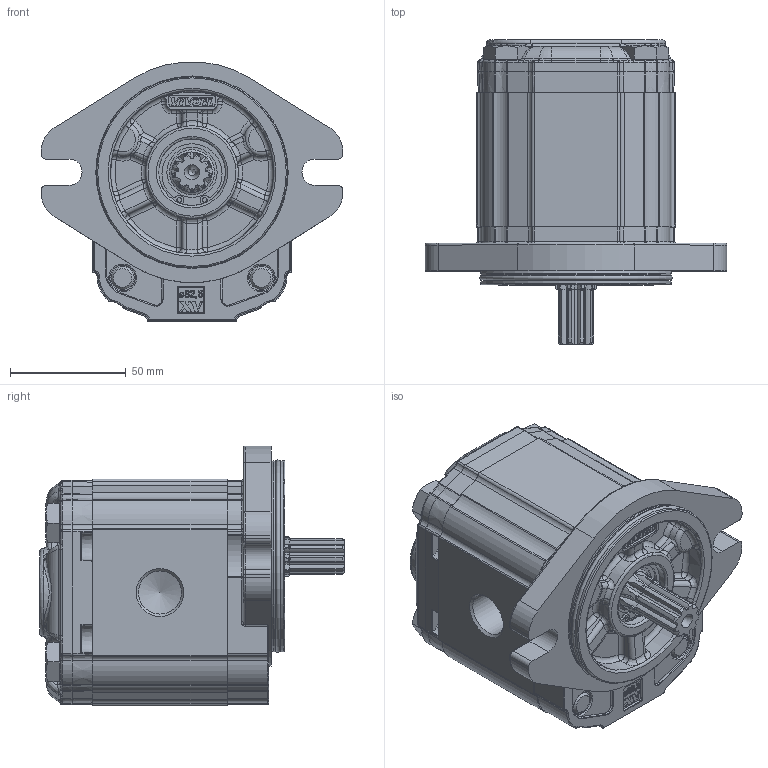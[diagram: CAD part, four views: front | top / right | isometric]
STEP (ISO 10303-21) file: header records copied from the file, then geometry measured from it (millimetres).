
FILE_DESCRIPTION(/* description */ ('Unknown'),/* implementation_level */ '2;1');
FILE_NAME(/* name */ 'X2R4731IBBF',/* time_stamp */ '2021-04-26T12:48:06+02:00',/* author */ ('Unknown'),/* organization */ ('Unknown'),/* preprocessor_version */ 'ST-DEVELOPER v16.7',/* originating_system */ 'Solid Edge',/* authorisation */ 'Unknown');
FILE_SCHEMA (('AUTOMOTIVE_DESIGN {1 0 10303 214 3 1 1}'));
Products named in the file (5): X2R4731IBBF; X2R31; 2I; X2BBH58; XR219-F
Assembly tree (4 placements, depth 2):
  X2R4731IBBF
    X2R31
    2I
    X2BBH58
    XR219-F
Bounding box: 130.38 x 131.7 x 112.3 mm (x, y, z)
Volume: 760419 mm3; surface area: 106184.8 mm2
Topology: 4 solids, 5 shells, 2106 faces, 5188 edges, 3159 vertices
Faces by surface type: cylinder 624, plane 572, bspline 513, torus 256, cone 103, sphere 38
Full cylindrical faces by diameter (mm): 2 x2, 10 x4, 10.5 x4, 11 x2, 16 x4, 17.42 x1, 17.48 x2, 18.631 x1, 18.724 x1, 19 x1, 20.595 x1, 21.741 x1, 25.834 x1, 28.56 x1, 28.57 x1, 28.8 x1, 30.4 x1, 79.6 x2, 82.5 x2
Entity records: 87439 total; most frequent: CARTESIAN_POINT 28189, ORIENTED_EDGE 10058, DIRECTION 8420, EDGE_CURVE 5029, AXIS2_PLACEMENT_3D 3198, VERTEX_POINT 3107, FACE_BOUND 2282, EDGE_LOOP 2278
